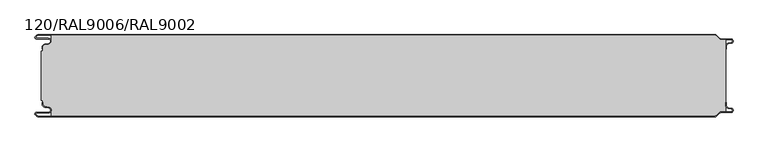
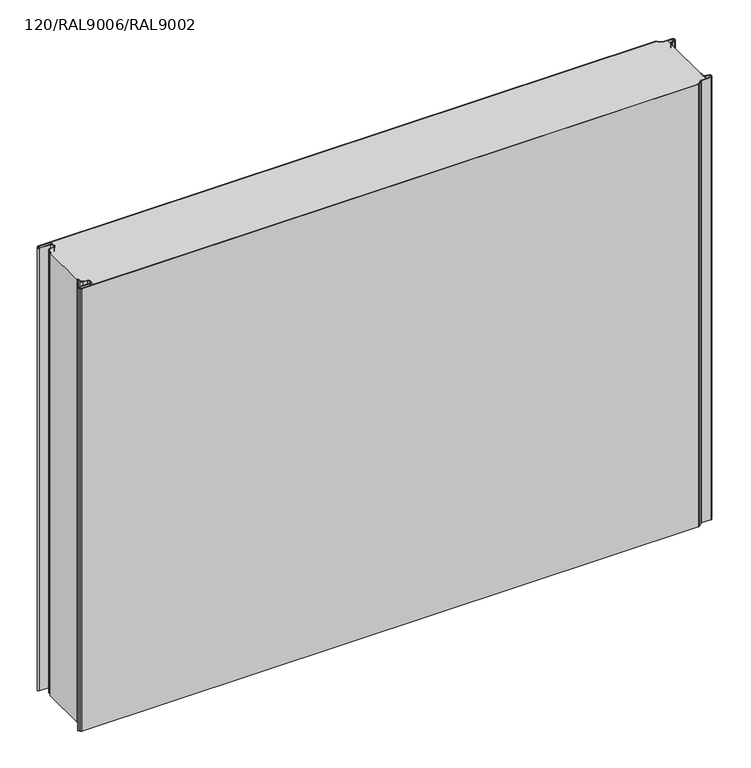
"""IFC4 building model written with IfcOpenShell, lengths in millimetres: plate geometry, TR_C_V_FTV_Panel : 120/RAL9006/RAL9002."""

import ifcopenshell
import ifcopenshell.guid

model = None  # the IFC model being written
_history = None  # IfcOwnerHistory: only IFC2X3 demands one
_inside = {}  # id of a spatial element -> (the spatial element, [elements in it])
_under = {}  # id of a project, library or spatial element -> (it, [spatial elements below it])
_declared = {}  # id of a project -> (the project, [libraries it declares])
_typed = {}  # id of a type object -> (the type object, [elements of that type])
_made_of = {}  # id of a material, layer set ... -> (it, [elements and type objects made of it])


def new_model(schema):
    """Start an empty IFC model of exactly this schema.

    Asked for "IFC4X3", IfcOpenShell would pick the latest addendum, in which some entities
    have other attributes; the version numbers below select the first issue.
    IFC2X3 requires an IfcOwnerHistory on every rooted entity: one is made here for all.
    """
    global model, _history
    if schema == "IFC4X3":
        model = ifcopenshell.file(schema_version=(4, 3, 0, 0))
    else:
        model = ifcopenshell.file(schema=schema)
    _inside.clear()
    _under.clear()
    _declared.clear()
    _typed.clear()
    _made_of.clear()
    _history = None
    if model.schema == "IFC2X3":
        org = make("IfcOrganization", Name="unknown")
        user = make(
            "IfcPersonAndOrganization",
            ThePerson=make("IfcPerson", FamilyName="unknown"),
            TheOrganization=org,
        )
        app = make(
            "IfcApplication",
            ApplicationDeveloper=org,
            Version="unknown",
            ApplicationFullName="unknown",
            ApplicationIdentifier="unknown",
        )
        _history = make(
            "IfcOwnerHistory",
            OwningUser=user,
            OwningApplication=app,
            ChangeAction="ADDED",
            CreationDate=0,
        )
    return model


def make(cls, **values):
    """One entity of the class cls with the attributes given. An attribute that is None is left unset."""
    return model.create_entity(
        cls, **{name: value for name, value in values.items() if value is not None}
    )


def rooted(cls, **values):
    """An entity with a GlobalId (a new one), such as an element, a storey or a relation."""
    return make(cls, GlobalId=ifcopenshell.guid.new(), OwnerHistory=_history, **values)


def si_unit(unit_type, name, prefix=None):
    """IfcSIUnit, for example si_unit("LENGTHUNIT", "METRE", prefix="MILLI")."""
    return make("IfcSIUnit", UnitType=unit_type, Prefix=prefix, Name=name)


def assignment(units):
    """IfcUnitAssignment: the units of a project."""
    return None if units is None else make("IfcUnitAssignment", Units=units)


def point(xyz):
    """IfcCartesianPoint."""
    return None if xyz is None else make("IfcCartesianPoint", Coordinates=xyz)


def direction(xyz):
    """IfcDirection."""
    return None if xyz is None else make("IfcDirection", DirectionRatios=xyz)


def frame(location, z_axis=None, x_axis=None):
    """IfcAxis2Placement3D, a coordinate frame: its origin and axes. An axis left out is left unset."""
    return make(
        "IfcAxis2Placement3D",
        Location=point(location),
        Axis=direction(z_axis),
        RefDirection=direction(x_axis),
    )


def frame_2d(location, x_axis=None):
    """IfcAxis2Placement2D, a coordinate frame in the plane: its origin and x axis."""
    return make(
        "IfcAxis2Placement2D", Location=point(location), RefDirection=direction(x_axis)
    )


def origin():
    """The frame at (0, 0, 0) with its axes left unset."""
    return frame((0.0, 0.0, 0.0))


def origin_with_axes():
    """The frame at (0, 0, 0) with the z axis (0, 0, 1) and the x axis (1, 0, 0) written out."""
    return frame((0.0, 0.0, 0.0), z_axis=(0.0, 0.0, 1.0), x_axis=(1.0, 0.0, 0.0))


def place(relative_to, where):
    """IfcLocalPlacement: puts the frame where relative to a parent placement (None: the world)."""
    return make(
        "IfcLocalPlacement", PlacementRelTo=relative_to, RelativePlacement=where
    )


def context(
    kind, dimensions, precision=None, world=None, true_north=None, identifier=None
):
    """IfcGeometricRepresentationContext, for example the 3D "Model" context."""
    return make(
        "IfcGeometricRepresentationContext",
        ContextIdentifier=identifier,
        ContextType=kind,
        CoordinateSpaceDimension=dimensions,
        Precision=precision,
        WorldCoordinateSystem=world,
        TrueNorth=true_north,
    )


def project(units=None, contexts=None):
    """IfcProject with its units and contexts."""
    return rooted(
        "IfcProject",
        Name="project",
        RepresentationContexts=contexts,
        UnitsInContext=assignment(units),
    )


def spatial(cls, under=None, at=None, **own):
    """A site, building, storey or space (cls), placed at a placement, below another one or the project."""
    s = rooted(cls, ObjectPlacement=at, **own)
    if under is not None:
        _under.setdefault(under.id(), (under, []))[1].append(s)
    return s


def polyline(points):
    """IfcPolyline through the points."""
    return make("IfcPolyline", Points=[point(p) for p in points])


def circle_curve(where, radius):
    """IfcCircle in the frame where."""
    return make("IfcCircle", Position=where, Radius=radius)


def trimmed(basis, trim1, trim2, sense, master):
    """IfcTrimmedCurve: the piece of a basis curve between two trims."""
    return make(
        "IfcTrimmedCurve",
        BasisCurve=basis,
        Trim1=trim1,
        Trim2=trim2,
        SenseAgreement=sense,
        MasterRepresentation=master,
    )


def segment(curve, same_sense, transition):
    """IfcCompositeCurveSegment."""
    return make(
        "IfcCompositeCurveSegment",
        Transition=transition,
        SameSense=same_sense,
        ParentCurve=curve,
    )


def composite_curve(segments, self_intersect=None):
    """IfcCompositeCurve: segments joined end to end."""
    return make("IfcCompositeCurve", Segments=segments, SelfIntersect=self_intersect)


def outline(outer, holes=None, kind="AREA"):
    """IfcArbitraryClosedProfileDef: a profile drawn as a closed curve; with holes, ...WithVoids."""
    if holes is None:
        return make("IfcArbitraryClosedProfileDef", ProfileType=kind, OuterCurve=outer)
    return make(
        "IfcArbitraryProfileDefWithVoids",
        ProfileType=kind,
        OuterCurve=outer,
        InnerCurves=holes,
    )


def extrude(swept, where, along, depth):
    """IfcExtrudedAreaSolid: the profile swept, set in the frame where, extruded along a direction by depth."""
    return make(
        "IfcExtrudedAreaSolid",
        SweptArea=swept,
        Position=where,
        ExtrudedDirection=direction(along),
        Depth=depth,
    )


def shape(context_of_items, identifier, shape_type, items):
    """IfcShapeRepresentation: the items that make up one representation, for example the "Body"."""
    return make(
        "IfcShapeRepresentation",
        ContextOfItems=context_of_items,
        RepresentationIdentifier=identifier,
        RepresentationType=shape_type,
        Items=items,
    )


def source(mapping_origin, context_of_items, identifier, shape_type, items):
    """IfcRepresentationMap: a shape defined once, which mapped items show again and again."""
    return make(
        "IfcRepresentationMap",
        MappingOrigin=mapping_origin,
        MappedRepresentation=shape(context_of_items, identifier, shape_type, items),
    )


def transform(
    local_origin,
    x_axis=None,
    y_axis=None,
    z_axis=None,
    scale=None,
    scale2=None,
    scale3=None,
    uniform=True,
):
    """IfcCartesianTransformationOperator3D, or its non-uniform kind. x_axis, y_axis, z_axis: its Axis1, 2, 3."""
    if uniform:
        return make(
            "IfcCartesianTransformationOperator3D",
            Axis1=direction(x_axis),
            Axis2=direction(y_axis),
            LocalOrigin=point(local_origin),
            Scale=scale,
            Axis3=direction(z_axis),
        )
    return make(
        "IfcCartesianTransformationOperator3DnonUniform",
        Axis1=direction(x_axis),
        Axis2=direction(y_axis),
        LocalOrigin=point(local_origin),
        Scale=scale,
        Axis3=direction(z_axis),
        Scale2=scale2,
        Scale3=scale3,
    )


def mapped(mapping_source, mapping_target):
    """IfcMappedItem: shows the shape of a source again, moved by a transform."""
    return make(
        "IfcMappedItem", MappingSource=mapping_source, MappingTarget=mapping_target
    )


def made_of(thing, what):
    """Note that an element or type object is made of a material, layer set ...; save() writes the relation."""
    if what is not None:
        _made_of.setdefault(what.id(), (what, []))[1].append(thing)
    return thing


def element(
    cls,
    number,
    at=None,
    inside=None,
    cuts=None,
    type_object=None,
    material=None,
    context=None,
    identifier="Body",
    shape_type=None,
    held_by="IfcProductDefinitionShape",
    body=None,
    shapes=None,
    **own,
):
    """One element of the class cls, such as IfcWall. Its Tag is "e" and its number.

    at: its placement. inside: the storey or other place that contains it. cuts: it is an
    opening in that element (IfcRelVoidsElement). A single representation is given by context,
    identifier, shape_type and body (its items); several are given by shapes. held_by: the class
    of the entity that holds the representations. save() writes the other relations.
    """
    e = rooted(cls, Tag="e%d" % number, ObjectPlacement=at, **own)
    if body is not None:
        shapes = [shape(context, identifier, shape_type, body)]
    if shapes is not None:
        e.Representation = make(held_by, Representations=shapes)
    if inside is not None:
        _inside.setdefault(inside.id(), (inside, []))[1].append(e)
    if cuts is not None:
        rooted(
            "IfcRelVoidsElement", RelatingBuildingElement=cuts, RelatedOpeningElement=e
        )
    if type_object is not None:
        _typed.setdefault(type_object.id(), (type_object, []))[1].append(e)
    return made_of(e, material)


def aggregate(whole, parts):
    """IfcRelAggregates: a whole, such as a stair, and the parts it consists of."""
    return rooted("IfcRelAggregates", RelatingObject=whole, RelatedObjects=parts)


def save(model, path):
    """Write the relations noted so far, then the file.

    IfcRelAggregates (storeys below a building ...), IfcRelContainedInSpatialStructure (elements
    in a storey), IfcRelDefinesByType, IfcRelAssociatesMaterial and IfcRelDeclares: one each for
    every whole, place, type object, material and project.
    """
    for whole, parts in _under.values():
        aggregate(whole, parts)
    for where, things in _inside.values():
        rooted(
            "IfcRelContainedInSpatialStructure",
            RelatedElements=things,
            RelatingStructure=where,
        )
    for kind, things in _typed.values():
        rooted("IfcRelDefinesByType", RelatedObjects=things, RelatingType=kind)
    for what, things in _made_of.values():
        rooted("IfcRelAssociatesMaterial", RelatedObjects=things, RelatingMaterial=what)
    for by, libraries in _declared.values():
        rooted("IfcRelDeclares", RelatingContext=by, RelatedDefinitions=libraries)
    model.write(path)


def plate_120_ral9006_ral9002_66214006(model_context):
    return source(origin(), model_context, "Body", "SweptSolid", [
        extrude(outline(composite_curve([segment(polyline([(499.8000012, -103.1130328), (499.8000012, -99.0), (500.6000012, -99.0), (500.6000012, -103.1130328)]), True, "CONTINUOUS"), segment(trimmed(circle_curve(frame_2d((504.3500012, -103.1130328)), 3.75), [point((500.6000012, -103.1130328))], [point((503.6988205, -106.8060618))], True, "CARTESIAN"), True, "CONTINUOUS"), segment(polyline([(503.6988205, -106.8060618), (507.9143577, -107.5493748)]), True, "CONTINUOUS"), segment(trimmed(circle_curve(frame_2d((507.3500012, -110.75)), 3.25), [point((507.9143577, -107.5493748))], [point((507.3500012, -114.0))], False, "CARTESIAN"), True, "CONTINUOUS"), segment(polyline([(507.3500012, -114.0), (492.6000012, -114.0)]), True, "CONTINUOUS"), segment(trimmed(circle_curve(frame_2d((492.6000012, -116.5)), 2.5), [point((492.6000012, -114.0))], [point((490.8322342, -114.732233))], True, "CARTESIAN"), True, "CONTINUOUS"), segment(polyline([(490.8322342, -114.732233), (486.4431469, -119.1213203)]), True, "CONTINUOUS"), segment(trimmed(circle_curve(frame_2d((484.3218266, -117.0)), 3.0), [point((486.4431469, -119.1213203))], [point((484.3218266, -120.0))], False, "CARTESIAN"), True, "CONTINUOUS"), segment(polyline([(484.3218266, -120.0), (-505.018628, -120.0)]), True, "CONTINUOUS"), segment(trimmed(circle_curve(frame_2d((-505.018628, -117.25)), 2.75), [point((-505.018628, -120.0))], [point((-506.9631716, -119.1945436))], False, "CARTESIAN"), True, "CONTINUOUS"), segment(polyline([(-506.9631716, -119.1945436), (-508.8288571, -117.3288582)]), True, "CONTINUOUS"), segment(trimmed(circle_curve(frame_2d((-507.4499988, -115.95)), 1.95), [point((-508.8288571, -117.3288582))], [point((-507.4499988, -114.0))], False, "CARTESIAN"), True, "CONTINUOUS"), segment(polyline([(-507.4499988, -114.0), (-489.8499988, -114.0)]), True, "CONTINUOUS"), segment(trimmed(circle_curve(frame_2d((-489.8499988, -110.55)), 3.45), [point((-489.8499988, -114.0))], [point((-489.2509126, -107.1524133))], True, "CARTESIAN"), True, "CONTINUOUS"), segment(polyline([(-489.2509126, -107.1524133), (-495.3011795, -106.085588)]), True, "CONTINUOUS"), segment(trimmed(circle_curve(frame_2d((-494.6499988, -102.3925589)), 3.75), [point((-495.3011795, -106.085588))], [point((-498.3999988, -102.3925589))], False, "CARTESIAN"), True, "CONTINUOUS"), segment(polyline([(-498.3999988, -102.3925589), (-498.3999988, -99.0), (-497.5999988, -99.0), (-497.5999988, -102.3925589)]), True, "CONTINUOUS"), segment(trimmed(circle_curve(frame_2d((-494.6499988, -102.3925589)), 2.95), [point((-497.5999988, -102.3925589))], [point((-495.162261, -105.2977418))], True, "CARTESIAN"), True, "CONTINUOUS"), segment(polyline([(-495.162261, -105.2977418), (-489.1119941, -106.364567)]), True, "CONTINUOUS"), segment(trimmed(circle_curve(frame_2d((-489.8499988, -110.55)), 4.25), [point((-489.1119941, -106.364567))], [point((-489.8499988, -114.8))], False, "CARTESIAN"), True, "CONTINUOUS"), segment(polyline([(-489.8499988, -114.8), (-507.4499988, -114.8)]), True, "CONTINUOUS"), segment(trimmed(circle_curve(frame_2d((-507.4499988, -115.95)), 1.15), [point((-507.4499988, -114.8))], [point((-508.2631716, -116.7631728))], True, "CARTESIAN"), True, "CONTINUOUS"), segment(polyline([(-508.2631716, -116.7631728), (-506.3974862, -118.6288582)]), True, "CONTINUOUS"), segment(trimmed(circle_curve(frame_2d((-505.018628, -117.25)), 1.95), [point((-506.3974862, -118.6288582))], [point((-505.018628, -119.2))], True, "CARTESIAN"), True, "CONTINUOUS"), segment(polyline([(-505.018628, -119.2), (484.3218266, -119.2)]), True, "CONTINUOUS"), segment(trimmed(circle_curve(frame_2d((484.3218266, -117.0)), 2.2), [point((484.3218266, -119.2))], [point((485.8774615, -118.5556349))], True, "CARTESIAN"), True, "CONTINUOUS"), segment(polyline([(485.8774615, -118.5556349), (490.2665488, -114.1665476)]), True, "CONTINUOUS"), segment(trimmed(circle_curve(frame_2d((492.6000012, -116.5)), 3.3), [point((490.2665488, -114.1665476))], [point((492.6000012, -113.2))], False, "CARTESIAN"), True, "CONTINUOUS"), segment(polyline([(492.6000012, -113.2), (507.3500012, -113.2)]), True, "CONTINUOUS"), segment(trimmed(circle_curve(frame_2d((507.3500012, -110.75)), 2.45), [point((507.3500012, -113.2))], [point((507.7754392, -108.337221))], True, "CARTESIAN"), True, "CONTINUOUS"), segment(polyline([(507.7754392, -108.337221), (503.559902, -107.5939081)]), True, "CONTINUOUS"), segment(trimmed(circle_curve(frame_2d((504.3500012, -103.1130328)), 4.55), [point((503.559902, -107.5939081))], [point((499.8000012, -103.1130328))], False, "CARTESIAN"), True, "CONTINUOUS")], self_intersect=False)), origin_with_axes(), (0.0, 0.0, 1.0), 750.0),
        extrude(outline(composite_curve([segment(polyline([(-499.9999988, -23.7), (-497.5999988, -23.7), (-497.5999988, -17.6074411)]), True, "CONTINUOUS"), segment(trimmed(circle_curve(frame_2d((-494.6499988, -17.6074411)), 2.95), [point((-497.5999988, -17.6074411))], [point((-495.162261, -14.7022582))], False, "CARTESIAN"), True, "CONTINUOUS"), segment(polyline([(-495.162261, -14.7022582), (-489.1119941, -13.635433)]), True, "CONTINUOUS"), segment(trimmed(circle_curve(frame_2d((-489.8499988, -9.45)), 4.25), [point((-489.1119941, -13.635433))], [point((-485.5999988, -9.45))], True, "CARTESIAN"), True, "CONTINUOUS"), segment(polyline([(-485.5999988, -9.45), (-485.5999988, -0.8), (484.3218266, -0.8)]), True, "CONTINUOUS"), segment(trimmed(circle_curve(frame_2d((484.3218266, -3.0)), 2.2), [point((484.3218266, -0.8))], [point((485.8774615, -1.4443651))], False, "CARTESIAN"), True, "CONTINUOUS"), segment(polyline([(485.8774615, -1.4443651), (490.2665488, -5.8334524)]), True, "CONTINUOUS"), segment(trimmed(circle_curve(frame_2d((492.6000012, -3.5)), 3.3), [point((490.2665488, -5.8334524))], [point((492.6000012, -6.8))], True, "CARTESIAN"), True, "CONTINUOUS"), segment(polyline([(492.6000012, -6.8), (500.0, -6.8), (500.0, -113.2), (492.6000012, -113.2)]), True, "CONTINUOUS"), segment(trimmed(circle_curve(frame_2d((492.6000012, -116.5)), 3.3), [point((492.6000012, -113.2))], [point((490.2665488, -114.1665476))], True, "CARTESIAN"), True, "CONTINUOUS"), segment(polyline([(490.2665488, -114.1665476), (485.8774615, -118.5556349)]), True, "CONTINUOUS"), segment(trimmed(circle_curve(frame_2d((484.3218266, -117.0)), 2.2), [point((485.8774615, -118.5556349))], [point((484.3218266, -119.2))], False, "CARTESIAN"), True, "CONTINUOUS"), segment(polyline([(484.3218266, -119.2), (-485.5999988, -119.2), (-485.5999988, -110.55)]), True, "CONTINUOUS"), segment(trimmed(circle_curve(frame_2d((-489.8499988, -110.55)), 4.25), [point((-485.5999988, -110.55))], [point((-489.1119941, -106.364567))], True, "CARTESIAN"), True, "CONTINUOUS"), segment(polyline([(-489.1119941, -106.364567), (-495.162261, -105.2977418)]), True, "CONTINUOUS"), segment(trimmed(circle_curve(frame_2d((-494.6499988, -102.3925589)), 2.95), [point((-495.162261, -105.2977418))], [point((-497.5999988, -102.3925589))], False, "CARTESIAN"), True, "CONTINUOUS"), segment(polyline([(-497.5999988, -102.3925589), (-497.5999988, -96.3), (-499.9999988, -96.3), (-499.9999988, -23.7)]), True, "CONTINUOUS")], self_intersect=False)), origin_with_axes(), (0.0, 0.0, 1.0), 750.0),
        extrude(outline(composite_curve([segment(trimmed(circle_curve(frame_2d((504.3500012, -16.8869672)), 4.55), [point((499.8000012, -16.8869672))], [point((503.559902, -12.4060919))], False, "CARTESIAN"), True, "CONTINUOUS"), segment(polyline([(503.559902, -12.4060919), (507.7754392, -11.662779)]), True, "CONTINUOUS"), segment(trimmed(circle_curve(frame_2d((507.3500012, -9.25)), 2.45), [point((507.7754392, -11.662779))], [point((507.3500012, -6.8))], True, "CARTESIAN"), True, "CONTINUOUS"), segment(polyline([(507.3500012, -6.8), (492.6000012, -6.8)]), True, "CONTINUOUS"), segment(trimmed(circle_curve(frame_2d((492.6000012, -3.5)), 3.3), [point((492.6000012, -6.8))], [point((490.2665488, -5.8334524))], False, "CARTESIAN"), True, "CONTINUOUS"), segment(polyline([(490.2665488, -5.8334524), (485.8774615, -1.4443651)]), True, "CONTINUOUS"), segment(trimmed(circle_curve(frame_2d((484.3218266, -3.0)), 2.2), [point((485.8774615, -1.4443651))], [point((484.3218266, -0.8))], True, "CARTESIAN"), True, "CONTINUOUS"), segment(polyline([(484.3218266, -0.8), (-505.018628, -0.8)]), True, "CONTINUOUS"), segment(trimmed(circle_curve(frame_2d((-505.018628, -2.75)), 1.95), [point((-505.018628, -0.8))], [point((-506.3974862, -1.3711418))], True, "CARTESIAN"), True, "CONTINUOUS"), segment(polyline([(-506.3974862, -1.3711418), (-508.2631716, -3.2368272)]), True, "CONTINUOUS"), segment(trimmed(circle_curve(frame_2d((-507.4499988, -4.05)), 1.15), [point((-508.2631716, -3.2368272))], [point((-507.4499988, -5.2))], True, "CARTESIAN"), True, "CONTINUOUS"), segment(polyline([(-507.4499988, -5.2), (-489.8499988, -5.2)]), True, "CONTINUOUS"), segment(trimmed(circle_curve(frame_2d((-489.8499988, -9.45)), 4.25), [point((-489.8499988, -5.2))], [point((-489.1119941, -13.635433))], False, "CARTESIAN"), True, "CONTINUOUS"), segment(polyline([(-489.1119941, -13.635433), (-495.162261, -14.7022582)]), True, "CONTINUOUS"), segment(trimmed(circle_curve(frame_2d((-494.6499988, -17.6074411)), 2.95), [point((-495.162261, -14.7022582))], [point((-497.5999988, -17.6074411))], True, "CARTESIAN"), True, "CONTINUOUS"), segment(polyline([(-497.5999988, -17.6074411), (-497.5999988, -21.0), (-498.3999988, -21.0), (-498.3999988, -17.6074411)]), True, "CONTINUOUS"), segment(trimmed(circle_curve(frame_2d((-494.6499988, -17.6074411)), 3.75), [point((-498.3999988, -17.6074411))], [point((-495.3011795, -13.914412))], False, "CARTESIAN"), True, "CONTINUOUS"), segment(polyline([(-495.3011795, -13.914412), (-489.2509126, -12.8475867)]), True, "CONTINUOUS"), segment(trimmed(circle_curve(frame_2d((-489.8499988, -9.45)), 3.45), [point((-489.2509126, -12.8475867))], [point((-489.8499988, -6.0))], True, "CARTESIAN"), True, "CONTINUOUS"), segment(polyline([(-489.8499988, -6.0), (-507.4499988, -6.0)]), True, "CONTINUOUS"), segment(trimmed(circle_curve(frame_2d((-507.4499988, -4.05)), 1.95), [point((-507.4499988, -6.0))], [point((-508.8288571, -2.6711418))], False, "CARTESIAN"), True, "CONTINUOUS"), segment(polyline([(-508.8288571, -2.6711418), (-506.9631716, -0.8054564)]), True, "CONTINUOUS"), segment(trimmed(circle_curve(frame_2d((-505.018628, -2.75)), 2.75), [point((-506.9631716, -0.8054564))], [point((-505.018628, 0.0))], False, "CARTESIAN"), True, "CONTINUOUS"), segment(polyline([(-505.018628, 0.0), (484.3218266, 0.0)]), True, "CONTINUOUS"), segment(trimmed(circle_curve(frame_2d((484.3218266, -3.0)), 3.0), [point((484.3218266, 0.0))], [point((486.4431469, -0.8786797))], False, "CARTESIAN"), True, "CONTINUOUS"), segment(polyline([(486.4431469, -0.8786797), (490.8322342, -5.267767)]), True, "CONTINUOUS"), segment(trimmed(circle_curve(frame_2d((492.6000012, -3.5)), 2.5), [point((490.8322342, -5.267767))], [point((492.6000012, -6.0))], True, "CARTESIAN"), True, "CONTINUOUS"), segment(polyline([(492.6000012, -6.0), (507.3500012, -6.0)]), True, "CONTINUOUS"), segment(trimmed(circle_curve(frame_2d((507.3500012, -9.25)), 3.25), [point((507.3500012, -6.0))], [point((507.9143577, -12.4506252))], False, "CARTESIAN"), True, "CONTINUOUS"), segment(polyline([(507.9143577, -12.4506252), (503.6988205, -13.1939382)]), True, "CONTINUOUS"), segment(trimmed(circle_curve(frame_2d((504.3500012, -16.8869672)), 3.75), [point((503.6988205, -13.1939382))], [point((500.6000012, -16.8869672))], True, "CARTESIAN"), True, "CONTINUOUS"), segment(polyline([(500.6000012, -16.8869672), (500.6000012, -21.0), (499.8000012, -21.0), (499.8000012, -16.8869672)]), True, "CONTINUOUS")], self_intersect=False)), origin_with_axes(), (0.0, 0.0, 1.0), 750.0),
    ])


if __name__ == "__main__":
    model = new_model("IFC4")
    model_context = context("Model", 3, world=origin())
    ifc_project = project(units=[si_unit("LENGTHUNIT", "METRE", prefix="MILLI")], contexts=[model_context])
    site = spatial("IfcSite", under=ifc_project)
    building = spatial("IfcBuilding", under=site)
    placement = place(None, origin())
    plate_120_ral9006_ral9002_shape = plate_120_ral9006_ral9002_66214006(model_context)
    element("IfcPlate", 1, ObjectType="TR_C_V_FTV_Panel : 120/RAL9006/RAL9002", at=placement, inside=building, context=model_context, shape_type="MappedRepresentation", body=[
        mapped(plate_120_ral9006_ral9002_shape, transform((0.0, 0.0, 0.0), x_axis=(1.0, 0.0, 0.0), y_axis=(0.0, 1.0, 0.0), z_axis=(0.0, 0.0, 1.0))),
    ])
    save(model, "model.ifc")
